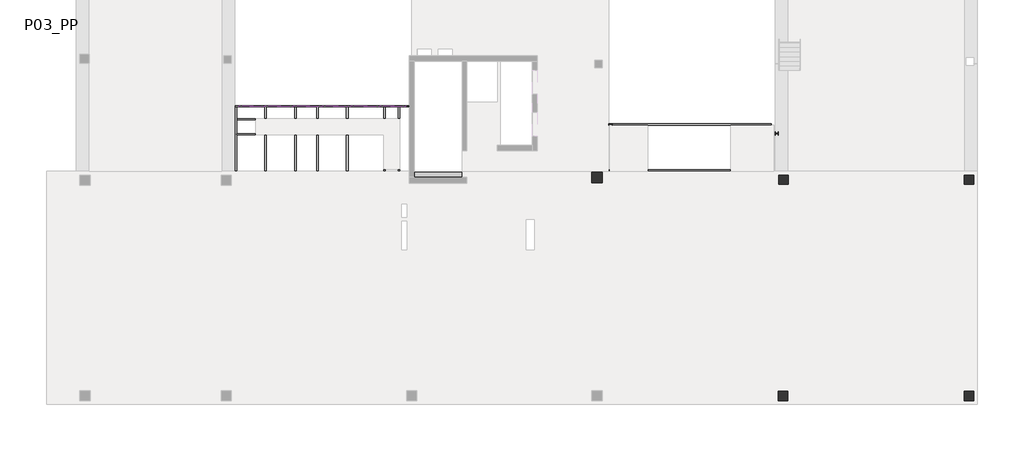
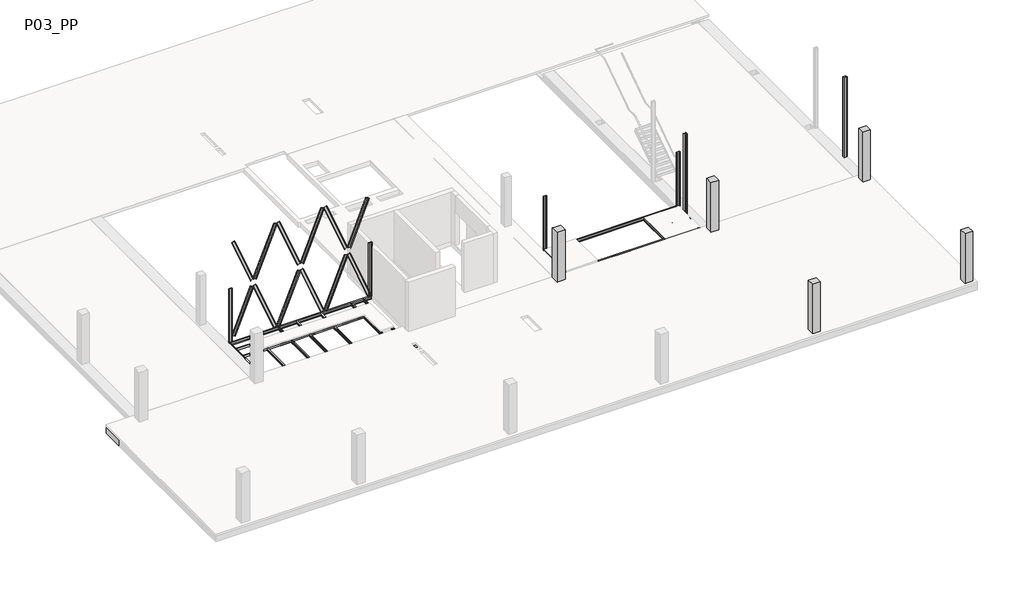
# One storey, part 2 of 4: 62 beams, 11 columns.
"""IFC4 building model written with IfcOpenShell, lengths in millimetres."""

from ifc_helpers import new_model, si_unit, frame, origin, place, context, project, spatial, polyline, outline, extrude, faceted_brep, transform, mapped, element, save
from components import ub_universal_beams_ipe_160x82_16e40fe9, ub_universal_beams_ipe_160x82_7bbaf760, ub_universal_beams_ipe_200x100_60d02f98, ub_universal_beams_ipe_200x100_8a704f57, ub_universal_beams_ipe_200x100_5514cdf4, ub_universal_beams_ipe_200x100_31cfee39, ub_universal_beams_ipe_200x100_46597ce6, upn120x55_69f0bca1, upn120x55_efc8f615, upn120x55_2e91fe93, upn120x55_dd576345, upn120x55_d7d90911, upn200x75_a6df8eeb, upn200x75_22e62ea1, upn200x75_15f8b11e, upn200x75_1f64faac, upn200x75_e6c17937, upn200x75_5ddb06b6, upn200x75_7b6a578c, upn200x75_df23aae5, upn200x75_922ad74a, upn200x75_de95b273, rhs_rectangular_hollow_section_column_200x150x5_0rhs_a2d85ab5, uc_universal_columns_column_uc180x180_37066f97, upn_200x75_1933780c

model = new_model("IFC4")

# Units and contexts
model_context = context("Model", 3, world=origin())
ifc_project = project(units=[si_unit("LENGTHUNIT", "METRE", prefix="MILLI")], contexts=[model_context])

# Site, building, storey
site = spatial("IfcSite", under=ifc_project)
building = spatial("IfcBuilding", under=site)
storey = spatial("IfcBuildingStorey", under=building, Name="P03_PP", Elevation=18660.0)

# Beams
placement = place(None, origin())
element("IfcBeam", 1, ObjectType="M_Concrete-Rectangular Beam : 1500 x 550mm", at=placement, inside=storey, context=model_context, shape_type="SweptSolid", body=[
    extrude(outline(polyline([(16958.7687297, -15610.5871866), (15458.7687297, -15610.5871866), (15458.7687297, -5360.5861564), (16958.7687297, -5360.5861564), (16958.7687297, -15610.5871866)])), frame((0.0, 0.0, 18110.0), z_axis=(0.0, 0.0, 1.0), x_axis=(1.0, 0.0, 0.0)), (0.0, 0.0, 1.0), 400.0),
])
element("IfcBeam", 2, ObjectType="M_Concrete-Rectangular Beam : 1500 x 550mm", at=placement, inside=storey, context=model_context, shape_type="Brep", body=[
    faceted_brep([(-10790.2146087, -4610.5861498, 18660.0), (-13390.3216429, -4610.5861498, 18660.0), (-13390.3216429, -4885.1039312, 18660.0), (-10790.2146087, -4885.1039312, 18660.0), (-33190.2931093, -6110.5861498, 18110.0), (-32490.2931093, -6110.5861498, 18110.0), (-31216.2708024, -6110.5861498, 18110.0), (-30816.2708024, -6110.5861498, 18110.0), (-29549.6041367, -6110.5861498, 18110.0), (-29149.6041367, -6110.5861498, 18110.0), (-27882.9374731, -6110.5861498, 18110.0), (-27482.9374731, -6110.5861498, 18110.0), (-26216.2708089, -6110.5861498, 18110.0), (-25816.2708089, -6110.5861498, 18110.0), (-24549.6041453, -6110.5861498, 18110.0), (-24149.6041453, -6110.5861498, 18110.0), (-22882.9374805, -6110.5861498, 18110.0), (-22482.9374805, -6110.5861498, 18110.0), (-21216.2708168, -6110.5861498, 18110.0), (-20816.2708168, -6110.5861498, 18110.0), (-19549.6041539, -6110.5861498, 18110.0), (-19149.6041539, -6110.5861498, 18110.0), (-17882.9374898, -6110.5861498, 18110.0), (-17482.9374898, -6110.5861498, 18110.0), (-16216.2708252, -6110.5861498, 18110.0), (-15816.2708252, -6110.5861498, 18110.0), (-14549.604161, -6110.5861498, 18110.0), (-14149.604161, -6110.5861498, 18110.0), (-12882.9374977, -6110.5861498, 18110.0), (-12482.9374977, -6110.5861498, 18110.0), (-11216.2708336, -6110.5861498, 18110.0), (-10816.2708336, -6110.5861498, 18110.0), (-9549.6041702, -6110.5861498, 18110.0), (-9149.6041702, -6110.5861498, 18110.0), (-7882.9375051, -6110.5861498, 18110.0), (-7482.9375051, -6110.5861498, 18110.0), (-6216.2708415, -6110.5861498, 18110.0), (-5816.2708415, -6110.5861498, 18110.0), (-4549.6041777, -6110.5861498, 18110.0), (-4149.6041777, -6110.5861498, 18110.0), (-2882.9375136, -6110.5861498, 18110.0), (-2482.9375136, -6110.5861498, 18110.0), (-1216.2708502, -6110.5861498, 18110.0), (-816.2708502, -6110.5861498, 18110.0), (450.3958139, -6110.5861498, 18110.0), (850.3958139, -6110.5861498, 18110.0), (2117.0624776, -6110.5861498, 18110.0), (2517.0624776, -6110.5861498, 18110.0), (3783.7291418, -6110.5861498, 18110.0), (4183.7291418, -6110.5861498, 18110.0), (5450.3958055, -6110.5861498, 18110.0), (5850.3957984, -6110.5861498, 18110.0), (5850.3957984, -6110.5861498, 18510.0), (5450.3958055, -6110.5861498, 18510.0), (4183.7291418, -6110.5861498, 18510.0), (3783.7291418, -6110.5861498, 18510.0), (2517.0624776, -6110.5861498, 18510.0), (2117.0624776, -6110.5861498, 18510.0), (850.3958139, -6110.5861498, 18510.0), (450.3958139, -6110.5861498, 18510.0), (-816.2708502, -6110.5861498, 18510.0), (-1216.2708502, -6110.5861498, 18510.0), (-2482.9375136, -6110.5861498, 18510.0), (-2882.9375136, -6110.5861498, 18510.0), (-4149.6041777, -6110.5861498, 18510.0), (-4549.6041777, -6110.5861498, 18510.0), (-5816.2708415, -6110.5861498, 18510.0), (-6216.2708415, -6110.5861498, 18510.0), (-7482.9375051, -6110.5861498, 18510.0), (-7882.9375051, -6110.5861498, 18510.0), (-9149.6041702, -6110.5861498, 18510.0), (-9549.6041702, -6110.5861498, 18510.0), (-10816.2708336, -6110.5861498, 18510.0), (-11216.2708336, -6110.5861498, 18510.0), (-12482.9374977, -6110.5861498, 18510.0), (-12882.9374977, -6110.5861498, 18510.0), (-14149.604161, -6110.5861498, 18510.0), (-14549.604161, -6110.5861498, 18510.0), (-15816.2708252, -6110.5861498, 18510.0), (-16216.2708252, -6110.5861498, 18510.0), (-17482.9374898, -6110.5861498, 18510.0), (-17882.9374898, -6110.5861498, 18510.0), (-19149.6041539, -6110.5861498, 18510.0), (-19549.6041539, -6110.5861498, 18510.0), (-20816.2708168, -6110.5861498, 18510.0), (-21216.2708168, -6110.5861498, 18510.0), (-22482.9374805, -6110.5861498, 18510.0), (-22882.9374805, -6110.5861498, 18510.0), (-24149.6041453, -6110.5861498, 18510.0), (-24549.6041453, -6110.5861498, 18510.0), (-25816.2708089, -6110.5861498, 18510.0), (-26216.2708089, -6110.5861498, 18510.0), (-27482.9374731, -6110.5861498, 18510.0), (-27882.9374731, -6110.5861498, 18510.0), (-29149.6041367, -6110.5861498, 18510.0), (-29549.6041367, -6110.5861498, 18510.0), (-30816.2708024, -6110.5861498, 18510.0), (-31216.2708024, -6110.5861498, 18510.0), (-32490.2931093, -6110.5861498, 18510.0), (-33190.2931093, -6110.5861498, 18510.0), (-3266.6336939, -5160.398017, 18110.0), (-3266.6336945, -4610.5861498, 18110.0), (5850.3957984, -4610.5861498, 18110.0), (-33190.2931093, -4610.5861498, 18110.0), (-13640.3216429, -4610.5861498, 18110.0), (-13640.3216429, -5185.1039323, 18110.0), (-10540.3248425, -5185.1039323, 18110.0), (-10540.3248425, -4885.1039323, 18110.0), (-13390.3216429, -4885.1039323, 18110.0), (-13390.3216429, -4610.5861498, 18110.0), (-3816.6336945, -4610.5861498, 18110.0), (-3816.6336939, -5160.3980176, 18110.0), (-23241.1836358, -5310.5863897, 18110.0), (-23241.1836357, -4760.5863897, 18110.0), (-23791.1836357, -4760.5863896, 18110.0), (-23791.1836358, -5310.5863896, 18110.0), (-30841.2256035, -5310.5863916, 18110.0), (-30841.2256052, -4760.5863916, 18110.0), (-31391.2256052, -4760.5863933, 18110.0), (-31391.2256035, -5310.5863933, 18110.0), (-13390.3216429, -4610.5861498, 18360.0), (-13640.3216429, -4610.5861498, 18360.0), (-33190.2931093, -4610.5861498, 18510.0), (-13390.3216429, -4610.5861498, 18510.0), (-10790.2146087, -4610.5861498, 18510.0), (-7015.3241677, -4610.5861498, 18510.0), (-6715.3241677, -4610.5861498, 18510.0), (-3763.6343046, -4610.5861498, 18510.0), (-2913.6343046, -4610.5861498, 18510.0), (5850.3957984, -4610.5861498, 18510.0), (-3266.6336945, -4610.5861498, 18360.0), (-3763.6343046, -4610.5861498, 18360.0), (-3816.6336945, -4610.5861498, 18360.0), (-3266.6336939, -5160.398017, 18360.0), (-3816.6336939, -5160.3980176, 18360.0), (-23241.1836358, -5310.5863897, 18360.0), (-23241.1836357, -4760.5863897, 18360.0), (-23791.1836358, -5310.5863896, 18360.0), (-23791.1836357, -4760.5863896, 18360.0), (-30841.2256035, -5310.5863916, 18360.0), (-30841.2256052, -4760.5863916, 18360.0), (-31391.2256035, -5310.5863933, 18360.0), (-31391.2256052, -4760.5863933, 18360.0), (-10540.3248425, -4885.1039323, 18360.0), (-13390.3216429, -4885.1039323, 18360.0), (-13640.3216429, -5185.1039323, 18360.0), (-10540.3248425, -5185.1039323, 18360.0), (-13640.3216429, -4885.1039323, 18360.0), (5850.3957984, -5360.5861564, 18510.0), (-10790.2146087, -4885.1039312, 18510.0), (-13390.3216429, -4885.1039312, 18510.0)], [[[0, 1, 2, 3]], [[4, 5, 6, 7, 8, 9, 10, 11, 12, 13, 14, 15, 16, 17, 18, 19, 20, 21, 22, 23, 24, 25, 26, 27, 28, 29, 30, 31, 32, 33, 34, 35, 36, 37, 38, 39, 40, 41, 42, 43, 44, 45, 46, 47, 48, 49, 50, 51, 52, 53, 54, 55, 56, 57, 58, 59, 60, 61, 62, 63, 64, 65, 66, 67, 68, 69, 70, 71, 72, 73, 74, 75, 76, 77, 78, 79, 80, 81, 82, 83, 84, 85, 86, 87, 88, 89, 90, 91, 92, 93, 94, 95, 96, 97, 98, 99]], [[100, 101, 102, 51, 50, 49, 48, 47, 46, 45, 44, 43, 42, 41, 40, 39, 38, 37, 36, 35, 34, 33, 32, 31, 30, 29, 28, 27, 26, 25, 24, 23, 22, 21, 20, 19, 18, 17, 16, 15, 14, 13, 12, 11, 10, 9, 8, 7, 6, 5, 4, 103, 104, 105, 106, 107, 108, 109, 110, 111], [112, 113, 114, 115], [116, 117, 118, 119]], [[109, 120, 121, 104, 103, 122, 123, 1, 0, 124, 125, 126, 127, 128, 129, 102, 101, 130, 131, 132, 110]], [[100, 133, 130, 101]], [[134, 133, 100, 111]], [[134, 111, 110, 132]], [[133, 134, 132, 131, 130]], [[135, 136, 113, 112]], [[137, 135, 112, 115]], [[138, 137, 115, 114]], [[136, 138, 114, 113]], [[136, 135, 137, 138]], [[139, 140, 117, 116]], [[141, 139, 116, 119]], [[142, 141, 119, 118]], [[140, 142, 118, 117]], [[140, 139, 141, 142]], [[107, 143, 144, 108]], [[145, 146, 106, 105]], [[146, 145, 147, 121, 120, 144, 143]], [[146, 143, 107, 106]], [[145, 105, 104, 121, 147]], [[144, 120, 109, 108]], [[51, 102, 129, 148, 52]], [[103, 4, 99, 122]], [[149, 150, 123, 122, 99, 98, 97, 96, 95, 94, 93, 92, 91, 90, 89, 88, 87, 86, 85, 84, 83, 82, 81, 80, 79, 78, 77, 76, 75, 74, 73, 72, 71, 70, 69, 68, 67, 66, 65, 64, 63, 62, 61, 60, 59, 58, 57, 56, 55, 54, 53, 52, 148, 129, 128, 127, 126, 125, 124]], [[3, 149, 124, 0]], [[150, 2, 1, 123]], [[150, 149, 3, 2]]]),
])
element("IfcBeam", 3, ObjectType="M_Concrete-Rectangular Beam : 400 x 550mm", at=placement, inside=storey, context=model_context, shape_type="SweptSolid", body=[
    extrude(outline(polyline([(-14149.604161, -15610.5871866), (-14549.604161, -15610.5871866), (-14549.604161, -6110.5861498), (-14149.604161, -6110.5861498), (-14149.604161, -15610.5871866)])), frame((0.0, 0.0, 18110.0), z_axis=(0.0, 0.0, 1.0), x_axis=(1.0, 0.0, 0.0)), (0.0, 0.0, 1.0), 400.0),
])
element("IfcBeam", 4, ObjectType="M_Concrete-Rectangular Beam : 400 x 550mm", at=placement, inside=storey, context=model_context, shape_type="SweptSolid", body=[
    extrude(outline(polyline([(-12482.9374977, -15610.5871866), (-12882.9374977, -15610.5871866), (-12882.9374977, -6110.5861498), (-12482.9374977, -6110.5861498), (-12482.9374977, -15610.5871866)])), frame((0.0, 0.0, 18110.0), z_axis=(0.0, 0.0, 1.0), x_axis=(1.0, 0.0, 0.0)), (0.0, 0.0, 1.0), 400.0),
])
element("IfcBeam", 5, ObjectType="M_Concrete-Rectangular Beam : 400 x 550mm", at=placement, inside=storey, context=model_context, shape_type="SweptSolid", body=[
    extrude(outline(polyline([(-10816.2708336, -15610.5871866), (-11216.2708336, -15610.5871866), (-11216.2708336, -6110.5861498), (-10816.2708336, -6110.5861498), (-10816.2708336, -15610.5871866)])), frame((0.0, 0.0, 18110.0), z_axis=(0.0, 0.0, 1.0), x_axis=(1.0, 0.0, 0.0)), (0.0, 0.0, 1.0), 400.0),
])
element("IfcBeam", 6, ObjectType="M_Concrete-Rectangular Beam : 400 x 550mm", at=placement, inside=storey, context=model_context, shape_type="SweptSolid", body=[
    extrude(outline(polyline([(-9149.6041702, -15610.5871866), (-9549.6041702, -15610.5871866), (-9549.6041702, -6110.5861498), (-9149.6041702, -6110.5861498), (-9149.6041702, -15610.5871866)])), frame((0.0, 0.0, 18110.0), z_axis=(0.0, 0.0, 1.0), x_axis=(1.0, 0.0, 0.0)), (0.0, 0.0, 1.0), 400.0),
])
element("IfcBeam", 7, ObjectType="M_Concrete-Rectangular Beam : 400 x 550mm", at=placement, inside=storey, context=model_context, shape_type="SweptSolid", body=[
    extrude(outline(polyline([(-7482.9375051, -15610.5871866), (-7882.9375051, -15610.5871866), (-7882.9375051, -6110.5861498), (-7482.9375051, -6110.5861498), (-7482.9375051, -15610.5871866)])), frame((0.0, 0.0, 18110.0), z_axis=(0.0, 0.0, 1.0), x_axis=(1.0, 0.0, 0.0)), (0.0, 0.0, 1.0), 400.0),
])
element("IfcBeam", 8, ObjectType="M_Concrete-Rectangular Beam : 400 x 550mm", at=placement, inside=storey, context=model_context, shape_type="SweptSolid", body=[
    extrude(outline(polyline([(-5816.2708415, -15610.5871866), (-6216.2708415, -15610.5871866), (-6216.2708415, -6110.5861498), (-5816.2708415, -6110.5861498), (-5816.2708415, -15610.5871866)])), frame((0.0, 0.0, 18110.0), z_axis=(0.0, 0.0, 1.0), x_axis=(1.0, 0.0, 0.0)), (0.0, 0.0, 1.0), 400.0),
])
element("IfcBeam", 9, ObjectType="M_Concrete-Rectangular Beam : 400 x 550mm", at=placement, inside=storey, context=model_context, shape_type="SweptSolid", body=[
    extrude(outline(polyline([(-4149.6041777, -15610.5871866), (-4549.6041777, -15610.5871866), (-4549.6041777, -6110.5861498), (-4149.6041777, -6110.5861498), (-4149.6041777, -15610.5871866)])), frame((0.0, 0.0, 18110.0), z_axis=(0.0, 0.0, 1.0), x_axis=(1.0, 0.0, 0.0)), (0.0, 0.0, 1.0), 400.0),
])
element("IfcBeam", 10, ObjectType="M_Concrete-Rectangular Beam : 400 x 550mm", at=placement, inside=storey, context=model_context, shape_type="SweptSolid", body=[
    extrude(outline(polyline([(-2482.9375136, -15610.5871866), (-2882.9375136, -15610.5871866), (-2882.9375136, -6110.5861498), (-2482.9375136, -6110.5861498), (-2482.9375136, -15610.5871866)])), frame((0.0, 0.0, 18110.0), z_axis=(0.0, 0.0, 1.0), x_axis=(1.0, 0.0, 0.0)), (0.0, 0.0, 1.0), 400.0),
])
element("IfcBeam", 11, ObjectType="M_Concrete-Rectangular Beam : 400 x 550mm", at=placement, inside=storey, context=model_context, shape_type="SweptSolid", body=[
    extrude(outline(polyline([(-816.2708502, -15610.5871866), (-1216.2708502, -15610.5871866), (-1216.2708502, -6110.5861498), (-816.2708502, -6110.5861498), (-816.2708502, -15610.5871866)])), frame((0.0, 0.0, 18110.0), z_axis=(0.0, 0.0, 1.0), x_axis=(1.0, 0.0, 0.0)), (0.0, 0.0, 1.0), 400.0),
])
element("IfcBeam", 12, ObjectType="M_Concrete-Rectangular Beam : 400 x 550mm", at=placement, inside=storey, context=model_context, shape_type="SweptSolid", body=[
    extrude(outline(polyline([(850.3958139, -15610.5871866), (450.3958139, -15610.5871866), (450.3958139, -6110.5861498), (850.3958139, -6110.5861498), (850.3958139, -15610.5871866)])), frame((0.0, 0.0, 18110.0), z_axis=(0.0, 0.0, 1.0), x_axis=(1.0, 0.0, 0.0)), (0.0, 0.0, 1.0), 400.0),
])
element("IfcBeam", 13, ObjectType="M_Concrete-Rectangular Beam : 400 x 550mm", at=placement, inside=storey, context=model_context, shape_type="SweptSolid", body=[
    extrude(outline(polyline([(2517.0624776, -15610.5871866), (2117.0624776, -15610.5871866), (2117.0624776, -6110.5861498), (2517.0624776, -6110.5861498), (2517.0624776, -15610.5871866)])), frame((0.0, 0.0, 18110.0), z_axis=(0.0, 0.0, 1.0), x_axis=(1.0, 0.0, 0.0)), (0.0, 0.0, 1.0), 400.0),
])
element("IfcBeam", 14, ObjectType="M_Concrete-Rectangular Beam : 400 x 550mm", at=placement, inside=storey, context=model_context, shape_type="SweptSolid", body=[
    extrude(outline(polyline([(4183.7291418, -15610.5871866), (3783.7291418, -15610.5871866), (3783.7291418, -6110.5861498), (4183.7291418, -6110.5861498), (4183.7291418, -15610.5871866)])), frame((0.0, 0.0, 18110.0), z_axis=(0.0, 0.0, 1.0), x_axis=(1.0, 0.0, 0.0)), (0.0, 0.0, 1.0), 400.0),
])
element("IfcBeam", 15, ObjectType="M_Concrete-Rectangular Beam : 400 x 550mm", at=placement, inside=storey, context=model_context, shape_type="SweptSolid", body=[
    extrude(outline(polyline([(5850.3958055, -15610.5871866), (5450.3958055, -15610.5871866), (5450.3958055, -6110.5861498), (5850.3958055, -6110.5861498), (5850.3958055, -15610.5871866)])), frame((0.0, 0.0, 18110.0), z_axis=(0.0, 0.0, 1.0), x_axis=(1.0, 0.0, 0.0)), (0.0, 0.0, 1.0), 400.0),
])
element("IfcBeam", 16, ObjectType="M_Concrete-Rectangular Beam : 400 x 550mm", at=placement, inside=storey, context=model_context, shape_type="SweptSolid", body=[
    extrude(outline(polyline([(7517.0624701, -15610.5871866), (7117.0624701, -15610.5871866), (7117.0624701, -5360.5861564), (7517.0624701, -5360.5861564), (7517.0624701, -15610.5871866)])), frame((0.0, 0.0, 18110.0), z_axis=(0.0, 0.0, 1.0), x_axis=(1.0, 0.0, 0.0)), (0.0, 0.0, 1.0), 400.0),
])
element("IfcBeam", 17, ObjectType="M_Concrete-Rectangular Beam : 400 x 550mm", at=placement, inside=storey, context=model_context, shape_type="SweptSolid", body=[
    extrude(outline(polyline([(9183.7291339, -15610.5871866), (8783.7291339, -15610.5871866), (8783.7291339, -5360.5861564), (9183.7291339, -5360.5861564), (9183.7291339, -15610.5871866)])), frame((0.0, 0.0, 18110.0), z_axis=(0.0, 0.0, 1.0), x_axis=(1.0, 0.0, 0.0)), (0.0, 0.0, 1.0), 400.0),
])
element("IfcBeam", 18, ObjectType="M_Concrete-Rectangular Beam : 400 x 550mm", at=placement, inside=storey, context=model_context, shape_type="SweptSolid", body=[
    extrude(outline(polyline([(10850.3957976, -15610.5871866), (10450.3957976, -15610.5871866), (10450.3957976, -5360.5861564), (10850.3957976, -5360.5861564), (10850.3957976, -15610.5871866)])), frame((0.0, 0.0, 18110.0), z_axis=(0.0, 0.0, 1.0), x_axis=(1.0, 0.0, 0.0)), (0.0, 0.0, 1.0), 400.0),
])
element("IfcBeam", 19, ObjectType="M_Concrete-Rectangular Beam : 400 x 550mm", at=placement, inside=storey, context=model_context, shape_type="SweptSolid", body=[
    extrude(outline(polyline([(12517.0624618, -15610.5871866), (12117.0624618, -15610.5871866), (12117.0624618, -5360.5861564), (12517.0624618, -5360.5861564), (12517.0624618, -15610.5871866)])), frame((0.0, 0.0, 18110.0), z_axis=(0.0, 0.0, 1.0), x_axis=(1.0, 0.0, 0.0)), (0.0, 0.0, 1.0), 400.0),
])
element("IfcBeam", 20, ObjectType="M_Concrete-Rectangular Beam : 400 x 550mm", at=placement, inside=storey, context=model_context, shape_type="SweptSolid", body=[
    extrude(outline(polyline([(14183.7291255, -15610.5871866), (13783.7291255, -15610.5871866), (13783.7291255, -5360.5861564), (14183.7291255, -5360.5861564), (14183.7291255, -15610.5871866)])), frame((0.0, 0.0, 18110.0), z_axis=(0.0, 0.0, 1.0), x_axis=(1.0, 0.0, 0.0)), (0.0, 0.0, 1.0), 400.0),
])
element("IfcBeam", 21, ObjectType="M_Concrete-Rectangular Beam : 800 x 700mm", at=placement, inside=storey, context=model_context, shape_type="Brep", body=[
    faceted_brep([(5850.3957984, -5360.5861564, 17960.0), (16258.7687242, -5360.5861564, 17960.0), (16958.7687297, -5360.5861564, 17960.0), (16958.7687297, -5360.5861564, 18110.0), (16958.7687297, -5360.5861564, 18510.0), (15458.7687297, -5360.5861564, 18510.0), (14183.7291255, -5360.5861564, 18510.0), (13783.7291255, -5360.5861564, 18510.0), (12517.0624618, -5360.5861564, 18510.0), (12117.0624618, -5360.5861564, 18510.0), (10850.3957976, -5360.5861564, 18510.0), (10450.3957976, -5360.5861564, 18510.0), (9183.7291339, -5360.5861564, 18510.0), (8783.7291339, -5360.5861564, 18510.0), (7517.0624701, -5360.5861564, 18510.0), (7117.0624701, -5360.5861564, 18510.0), (5850.3957984, -5360.5861564, 18510.0), (16958.7687297, -4560.5861564, 17960.0), (5850.3957984, -4560.5861564, 17960.0), (6058.8308521, -4560.5861564, 17960.0), (6758.8308521, -4560.5861564, 17960.0), (16258.7687242, -4560.5861564, 17960.0), (6758.8308537, -5260.6051135, 17960.0), (6758.8308538, -4760.6051135, 17960.0), (6258.8308538, -4760.6051134, 17960.0), (6258.8308537, -5260.6051134, 17960.0), (16758.7686348, -5260.6050919, 17960.0), (16758.7686345, -4760.6050919, 17960.0), (16258.7686345, -4760.6050922, 17960.0), (16258.7686348, -5260.6050922, 17960.0), (5850.3957984, -4560.5861564, 18510.0), (16958.7687297, -4560.5861564, 18510.0), (6758.8308537, -5260.6051135, 18360.0), (6758.8308538, -4760.6051135, 18360.0), (6258.8308537, -5260.6051134, 18360.0), (6258.8308538, -4760.6051134, 18360.0), (16758.7686348, -5260.6050919, 18360.0), (16758.7686345, -4760.6050919, 18360.0), (16258.7686348, -5260.6050922, 18360.0), (16258.7686345, -4760.6050922, 18360.0), (5850.3957984, -4610.5861498, 18510.0)], [[[0, 1, 2, 3, 4, 5, 6, 7, 8, 9, 10, 11, 12, 13, 14, 15, 16]], [[17, 2, 1, 0, 18, 19, 20, 21], [22, 23, 24, 25], [26, 27, 28, 29]], [[17, 21, 20, 19, 18, 30, 31]], [[2, 17, 31, 4, 3]], [[32, 33, 23, 22]], [[34, 32, 22, 25]], [[33, 32, 34, 35]], [[35, 34, 25, 24]], [[36, 37, 27, 26]], [[38, 36, 26, 29]], [[39, 38, 29, 28]], [[37, 36, 38, 39]], [[33, 35, 24, 23]], [[37, 39, 28, 27]], [[18, 0, 16, 40, 30]], [[16, 15, 14, 13, 12, 11, 10, 9, 8, 7, 6, 5, 4, 31, 30, 40]]]),
])
ub_universal_beams_ipe_160x82_shape = ub_universal_beams_ipe_160x82_16e40fe9(model_context)
element("IfcBeam", 22, ObjectType="UB-Universal Beams : IPE 160x82", at=placement, inside=storey, context=model_context, shape_type="MappedRepresentation", body=[
    mapped(ub_universal_beams_ipe_160x82_shape, transform((-14190.4459331, -2817.636997, 18580.0), x_axis=(0.0, 1.0, 0.0), y_axis=(-1.0, 0.0, 0.0), z_axis=(0.0, 0.0, 1.0))),
])
element("IfcBeam", 23, ObjectType="UB-Universal Beams : IPE 160x82", at=placement, inside=storey, context=model_context, shape_type="MappedRepresentation", body=[
    mapped(ub_universal_beams_ipe_160x82_shape, transform((-14990.4459326, -2817.636969, 18580.0), x_axis=(0.0, 1.0, 0.0), y_axis=(-1.0, 0.0, 0.0), z_axis=(0.0, 0.0, 1.0))),
])
element("IfcBeam", 24, ObjectType="UB-Universal Beams : IPE 160x82", at=placement, inside=storey, context=model_context, shape_type="MappedRepresentation", body=[
    mapped(ub_universal_beams_ipe_160x82_shape, transform((-16990.4459316, -2817.6368991, 18580.0), x_axis=(0.0, 1.0, 0.0), y_axis=(-1.0, 0.0, 0.0), z_axis=(0.0, 0.0, 1.0))),
])
element("IfcBeam", 25, ObjectType="UB-Universal Beams : IPE 160x82", at=placement, inside=storey, context=model_context, shape_type="MappedRepresentation", body=[
    mapped(ub_universal_beams_ipe_160x82_shape, transform((-18590.4459308, -2817.6368432, 18580.0), x_axis=(0.0, 1.0, 0.0), y_axis=(-1.0, 0.0, 0.0), z_axis=(0.0, 0.0, 1.0))),
])
element("IfcBeam", 26, ObjectType="UB-Universal Beams : IPE 160x82", at=placement, inside=storey, context=model_context, shape_type="MappedRepresentation", body=[
    mapped(ub_universal_beams_ipe_160x82_shape, transform((-19790.4459314, -2817.6368012, 18580.0), x_axis=(0.0, 1.0, 0.0), y_axis=(-1.0, 0.0, 0.0), z_axis=(0.0, 0.0, 1.0))),
])
element("IfcBeam", 27, ObjectType="UB-Universal Beams : IPE 160x82", at=placement, inside=storey, context=model_context, shape_type="MappedRepresentation", body=[
    mapped(ub_universal_beams_ipe_160x82_shape, transform((-21390.4459306, -2817.6367453, 18580.0), x_axis=(0.0, 1.0, 0.0), y_axis=(-1.0, 0.0, 0.0), z_axis=(0.0, 0.0, 1.0))),
])
ub_universal_beams_ipe_160x82_2_shape = ub_universal_beams_ipe_160x82_7bbaf760(model_context)
element("IfcBeam", 28, ObjectType="UB-Universal Beams : IPE 160x82", at=placement, inside=storey, context=model_context, shape_type="MappedRepresentation", body=[
    mapped(ub_universal_beams_ipe_160x82_2_shape, transform((-22991.1860553, -2817.6366893, 18580.0), x_axis=(0.0, 1.0, 0.0), y_axis=(-1.0, 0.0, 0.0), z_axis=(0.0, 0.0, 1.0))),
])
ub_universal_beams_ipe_200x100_shape = ub_universal_beams_ipe_200x100_60d02f98(model_context)
element("IfcBeam", 29, ObjectType="UB-Universal Beams : IPE 200x100", at=placement, inside=storey, context=model_context, shape_type="MappedRepresentation", body=[
    mapped(ub_universal_beams_ipe_200x100_shape, transform((1299.9319648, -4509.6213025, 18560.0), x_axis=(-1.0, 0.0, 0.0), y_axis=(0.0, -1.0, 0.0), z_axis=(0.0, 0.0, 1.0))),
])
ub_universal_beams_ipe_200x100_2_shape = ub_universal_beams_ipe_200x100_8a704f57(model_context)
element("IfcBeam", 30, ObjectType="UB-Universal Beams : IPE 200x100", at=placement, inside=storey, context=model_context, shape_type="MappedRepresentation", body=[
    mapped(ub_universal_beams_ipe_200x100_2_shape, transform((5938.4982342, -3517.7089767, 18560.0), x_axis=(0.0, 1.0, 0.0), y_axis=(-1.0, 0.0, 0.0), z_axis=(0.0, 0.0, 1.0))),
])
ub_universal_beams_ipe_200x100_3_shape = ub_universal_beams_ipe_200x100_5514cdf4(model_context)
element("IfcBeam", 31, ObjectType="UB-Universal Beams : IPE 200x100", at=placement, inside=storey, context=model_context, shape_type="MappedRepresentation", body=[
    mapped(ub_universal_beams_ipe_200x100_3_shape, transform((3714.2873994, -3297.6901467, 18560.0), x_axis=(0.0, 1.0, 0.0), y_axis=(-1.0, 0.0, 0.0), z_axis=(0.0, 0.0, 1.0))),
])
ub_universal_beams_ipe_200x100_4_shape = ub_universal_beams_ipe_200x100_31cfee39(model_context)
element("IfcBeam", 32, ObjectType="UB-Universal Beams : IPE 200x100", at=placement, inside=storey, context=model_context, shape_type="MappedRepresentation", body=[
    mapped(ub_universal_beams_ipe_200x100_4_shape, transform((-861.4958562, -3297.6901467, 18560.0), x_axis=(0.0, 1.0, 0.0), y_axis=(-1.0, 0.0, 0.0), z_axis=(0.0, 0.0, 1.0))),
])
element("IfcBeam", 33, ObjectType="UB-Universal Beams : IPE 200x100", at=placement, inside=storey, context=model_context, shape_type="MappedRepresentation", body=[
    mapped(ub_universal_beams_ipe_200x100_4_shape, transform((4826.3953909, -3297.6901467, 18560.0), x_axis=(0.0, 1.0, 0.0), y_axis=(-1.0, 0.0, 0.0), z_axis=(0.0, 0.0, 1.0))),
])
element("IfcBeam", 34, ObjectType="UB-Universal Beams : IPE 200x100", at=placement, inside=storey, context=model_context, shape_type="MappedRepresentation", body=[
    mapped(ub_universal_beams_ipe_200x100_4_shape, transform((-1511.4958562, -3297.6901467, 18560.0), x_axis=(0.0, 1.0, 0.0), y_axis=(-1.0, 0.0, 0.0), z_axis=(0.0, 0.0, 1.0))),
])
element("IfcBeam", 35, ObjectType="UB-Universal Beams : IPE 200x100", at=placement, inside=storey, context=model_context, shape_type="MappedRepresentation", body=[
    mapped(ub_universal_beams_ipe_200x100_4_shape, transform((-2161.4958562, -3297.6901467, 18560.0), x_axis=(0.0, 1.0, 0.0), y_axis=(-1.0, 0.0, 0.0), z_axis=(0.0, 0.0, 1.0))),
])
ub_universal_beams_ipe_200x100_5_shape = ub_universal_beams_ipe_200x100_46597ce6(model_context)
element("IfcBeam", 36, ObjectType="UB-Universal Beams : IPE 200x100", at=placement, inside=storey, context=model_context, shape_type="MappedRepresentation", body=[
    mapped(ub_universal_beams_ipe_200x100_5_shape, transform((-2811.4958562, -3292.2266861, 18560.0), x_axis=(0.0, 1.0, 0.0), y_axis=(-1.0, 0.0, 0.0), z_axis=(0.0, 0.0, 1.0))),
])
upn120x55_shape = upn120x55_69f0bca1(model_context)
element("IfcBeam", 37, ObjectType="M_MC Shapes : UPN120x55", at=placement, inside=storey, context=model_context, shape_type="MappedRepresentation", body=[
    mapped(upn120x55_shape, transform((-14590.4459328, -1772.1875003, 18600.0), x_axis=(0.9999999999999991, -4.319868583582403e-08, 0.0), y_axis=(4.319868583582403e-08, 0.9999999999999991, 0.0), z_axis=(0.0, 0.0, 1.0))),
])
element("IfcBeam", 38, ObjectType="M_MC Shapes : UPN120x55", at=placement, inside=storey, context=model_context, shape_type="MappedRepresentation", body=[
    mapped(upn120x55_shape, transform((-14590.4459328, -2572.1874803, 18600.0), x_axis=(0.9999999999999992, -4.0441322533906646e-08, 0.0), y_axis=(4.0441322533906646e-08, 0.9999999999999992, 0.0), z_axis=(0.0, 0.0, 1.0))),
])
upn120x55_2_shape = upn120x55_efc8f615(model_context)
element("IfcBeam", 39, ObjectType="M_MC Shapes : UPN120x55", at=placement, inside=storey, context=model_context, shape_type="MappedRepresentation", body=[
    mapped(upn120x55_2_shape, transform((-15990.4459321, -2572.1874237, 18600.0), x_axis=(0.9999999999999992, -4.0441322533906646e-08, 0.0), y_axis=(4.0441322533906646e-08, 0.9999999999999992, 0.0), z_axis=(0.0, 0.0, 1.0))),
])
element("IfcBeam", 40, ObjectType="M_MC Shapes : UPN120x55", at=placement, inside=storey, context=model_context, shape_type="MappedRepresentation", body=[
    mapped(upn120x55_2_shape, transform((-15990.4459321, -1772.1874398, 18600.0), x_axis=(0.9999999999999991, -4.319868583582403e-08, 0.0), y_axis=(4.319868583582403e-08, 0.9999999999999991, 0.0), z_axis=(0.0, 0.0, 1.0))),
])
upn120x55_3_shape = upn120x55_2e91fe93(model_context)
element("IfcBeam", 41, ObjectType="M_MC Shapes : UPN120x55", at=placement, inside=storey, context=model_context, shape_type="MappedRepresentation", body=[
    mapped(upn120x55_3_shape, transform((-20590.445931, -2572.1872377, 18600.0), x_axis=(0.9999999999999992, -4.0441322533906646e-08, 0.0), y_axis=(4.0441322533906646e-08, 0.9999999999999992, 0.0), z_axis=(0.0, 0.0, 1.0))),
])
element("IfcBeam", 42, ObjectType="M_MC Shapes : UPN120x55", at=placement, inside=storey, context=model_context, shape_type="MappedRepresentation", body=[
    mapped(upn120x55_3_shape, transform((-17790.4459312, -2572.1873509, 18600.0), x_axis=(0.9999999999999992, -4.0441322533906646e-08, 0.0), y_axis=(4.0441322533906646e-08, 0.9999999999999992, 0.0), z_axis=(0.0, 0.0, 1.0))),
])
element("IfcBeam", 43, ObjectType="M_MC Shapes : UPN120x55", at=placement, inside=storey, context=model_context, shape_type="MappedRepresentation", body=[
    mapped(upn120x55_3_shape, transform((-20590.445931, -1772.1872411, 18600.0), x_axis=(0.9999999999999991, -4.319868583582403e-08, 0.0), y_axis=(4.319868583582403e-08, 0.9999999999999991, 0.0), z_axis=(0.0, 0.0, 1.0))),
])
element("IfcBeam", 44, ObjectType="M_MC Shapes : UPN120x55", at=placement, inside=storey, context=model_context, shape_type="MappedRepresentation", body=[
    mapped(upn120x55_3_shape, transform((-17790.4459312, -1772.1873621, 18600.0), x_axis=(0.9999999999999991, -4.319868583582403e-08, 0.0), y_axis=(4.319868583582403e-08, 0.9999999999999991, 0.0), z_axis=(0.0, 0.0, 1.0))),
])
upn120x55_4_shape = upn120x55_dd576345(model_context)
element("IfcBeam", 45, ObjectType="M_MC Shapes : UPN120x55", at=placement, inside=storey, context=model_context, shape_type="MappedRepresentation", body=[
    mapped(upn120x55_4_shape, transform((-19190.4459311, -2572.1872943, 18600.0), x_axis=(0.9999999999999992, -4.0441322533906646e-08, 0.0), y_axis=(4.0441322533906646e-08, 0.9999999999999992, 0.0), z_axis=(0.0, 0.0, 1.0))),
])
element("IfcBeam", 46, ObjectType="M_MC Shapes : UPN120x55", at=placement, inside=storey, context=model_context, shape_type="MappedRepresentation", body=[
    mapped(upn120x55_4_shape, transform((-19190.4459311, -1772.1873016, 18600.0), x_axis=(0.9999999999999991, -4.319868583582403e-08, 0.0), y_axis=(4.319868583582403e-08, 0.9999999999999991, 0.0), z_axis=(0.0, 0.0, 1.0))),
])
upn120x55_5_shape = upn120x55_d7d90911(model_context)
element("IfcBeam", 47, ObjectType="M_MC Shapes : UPN120x55", at=placement, inside=storey, context=model_context, shape_type="MappedRepresentation", body=[
    mapped(upn120x55_5_shape, transform((-22165.4459321, -2572.187174, 18600.0), x_axis=(0.9999999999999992, -4.0441322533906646e-08, 0.0), y_axis=(4.0441322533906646e-08, 0.9999999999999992, 0.0), z_axis=(0.0, 0.0, 1.0))),
])
element("IfcBeam", 48, ObjectType="M_MC Shapes : UPN120x55", at=placement, inside=storey, context=model_context, shape_type="MappedRepresentation", body=[
    mapped(upn120x55_5_shape, transform((-22165.4459321, -1772.1871731, 18600.0), x_axis=(0.9999999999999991, -4.319868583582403e-08, 0.0), y_axis=(4.319868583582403e-08, 0.9999999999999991, 0.0), z_axis=(0.0, 0.0, 1.0))),
])
upn200x75_shape = upn200x75_a6df8eeb(model_context)
element("IfcBeam", 49, ObjectType="M_MC Shapes : UPN200x75", at=placement, inside=storey, context=model_context, shape_type="MappedRepresentation", body=[
    mapped(upn200x75_shape, transform((-18453.2517869, -1021.4871854, 18560.0), x_axis=(0.9999999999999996, -3.175673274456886e-08, 0.0), y_axis=(3.175673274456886e-08, 0.9999999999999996, 0.0), z_axis=(0.0, 0.0, 1.0))),
])
upn200x75_2_shape = upn200x75_22e62ea1(model_context)
element("IfcBeam", 50, ObjectType="M_MC Shapes : UPN200x75", at=placement, inside=storey, context=model_context, shape_type="MappedRepresentation", body=[
    mapped(upn200x75_2_shape, transform((-22210.933959, -1021.4872932, 20386.1409985), x_axis=(-0.3712989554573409, -1.1791242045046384e-08, -0.9285133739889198), y_axis=(3.175673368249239e-08, -0.9999999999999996, 0.0), z_axis=(-0.9285133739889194, -2.948655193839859e-08, 0.37129895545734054))),
])
upn200x75_3_shape = upn200x75_15f8b11e(model_context)
element("IfcBeam", 51, ObjectType="M_MC Shapes : UPN200x75", at=placement, inside=storey, context=model_context, shape_type="MappedRepresentation", body=[
    mapped(upn200x75_3_shape, transform((-14471.8716047, -1021.4872932, 20389.3990465), x_axis=(0.3712989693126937, -1.1791242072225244e-08, -0.9285133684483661), y_axis=(3.175673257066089e-08, 0.9999999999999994, 0.0), z_axis=(0.9285133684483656, -2.9486550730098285e-08, 0.37129896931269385))),
])
upn200x75_4_shape = upn200x75_1f64faac(model_context)
element("IfcBeam", 52, ObjectType="M_MC Shapes : UPN200x75", at=placement, inside=storey, context=model_context, shape_type="MappedRepresentation", body=[
    mapped(upn200x75_4_shape, transform((-14471.8716047, -1021.4872932, 24230.6012021), x_axis=(0.3712989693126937, -1.1791242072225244e-08, 0.9285133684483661), y_axis=(-3.175672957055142e-08, -0.9999999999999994, 0.0), z_axis=(0.9285133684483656, -2.9486547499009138e-08, -0.37129896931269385))),
])
upn200x75_5_shape = upn200x75_e6c17937(model_context)
element("IfcBeam", 53, ObjectType="M_MC Shapes : UPN200x75", at=placement, inside=storey, context=model_context, shape_type="MappedRepresentation", body=[
    mapped(upn200x75_5_shape, transform((-22210.933959, -1021.4872932, 24233.85925), x_axis=(-0.3712989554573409, -1.1791242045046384e-08, 0.9285133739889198), y_axis=(-3.175673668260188e-08, 0.9999999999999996, 0.0), z_axis=(-0.9285133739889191, -2.948655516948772e-08, -0.37129895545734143))),
])
upn200x75_6_shape = upn200x75_5ddb06b6(model_context)
element("IfcBeam", 54, ObjectType="M_MC Shapes : UPN200x75", at=placement, inside=storey, context=model_context, shape_type="MappedRepresentation", body=[
    mapped(upn200x75_6_shape, transform((-17564.6040172, -1021.4872929, 24222.9889381), x_axis=(0.3751231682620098, -1.157656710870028e-08, 0.9269749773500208), y_axis=(-3.086070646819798e-08, -0.9999999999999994, 0.0), z_axis=(0.9269749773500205, -2.860710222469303e-08, -0.37512316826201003))),
])
upn200x75_7_shape = upn200x75_7b6a578c(model_context)
element("IfcBeam", 55, ObjectType="M_MC Shapes : UPN200x75", at=placement, inside=storey, context=model_context, shape_type="MappedRepresentation", body=[
    mapped(upn200x75_7_shape, transform((-20665.2420333, -1021.4872929, 24224.0694044), x_axis=(0.3750164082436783, -1.1573272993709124e-08, 0.9270181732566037), y_axis=(-3.086070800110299e-08, -0.9999999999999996, 0.0), z_axis=(0.9270181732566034, -2.8608436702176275e-08, -0.37501640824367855))),
])
element("IfcBeam", 56, ObjectType="M_MC Shapes : UPN200x75", at=placement, inside=storey, context=model_context, shape_type="MappedRepresentation", body=[
    mapped(upn200x75_6_shape, transform((-16016.0393958, -1021.4872929, 20397.0114847), x_axis=(-0.3751231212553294, -1.1576566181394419e-08, -0.9269749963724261), y_axis=(3.086071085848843e-08, -0.9999999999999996, 0.0), z_axis=(-0.9269749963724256, -2.8607107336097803e-08, 0.37512312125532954))),
])
upn200x75_8_shape = upn200x75_df23aae5(model_context)
element("IfcBeam", 57, ObjectType="M_MC Shapes : UPN200x75", at=placement, inside=storey, context=model_context, shape_type="MappedRepresentation", body=[
    mapped(upn200x75_8_shape, transform((-17564.6040172, -1021.4872929, 20397.0113105), x_axis=(0.3751231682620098, -1.157656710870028e-08, -0.9269749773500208), y_axis=(3.086070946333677e-08, 0.9999999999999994, 0.0), z_axis=(0.9269749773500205, -2.860710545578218e-08, 0.37512316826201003))),
])
element("IfcBeam", 58, ObjectType="M_MC Shapes : UPN200x75", at=placement, inside=storey, context=model_context, shape_type="MappedRepresentation", body=[
    mapped(upn200x75_7_shape, transform((-19117.1200224, -1021.4872929, 20395.9307972), x_axis=(-0.3750164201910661, -1.1573273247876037e-08, -0.9270181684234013), y_axis=(3.086071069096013e-08, -0.9999999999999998, 0.0), z_axis=(-0.927018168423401, -2.8608439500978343e-08, 0.37501642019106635))),
])
upn200x75_9_shape = upn200x75_922ad74a(model_context)
element("IfcBeam", 59, ObjectType="M_MC Shapes : UPN200x75", at=placement, inside=storey, context=model_context, shape_type="MappedRepresentation", body=[
    mapped(upn200x75_9_shape, transform((-20665.2420334, -1021.4872929, 20395.9308442), x_axis=(0.375016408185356, -1.1573272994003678e-08, -0.9270181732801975), y_axis=(3.086071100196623e-08, 0.9999999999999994, 0.0), z_axis=(0.9270181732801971, -2.860843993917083e-08, 0.37501640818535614))),
])
element("IfcBeam", 60, ObjectType="M_MC Shapes : UPN200x75", at=placement, inside=storey, context=model_context, shape_type="MappedRepresentation", body=[
    mapped(upn200x75_9_shape, transform((-19117.1200222, -1021.4872929, 24224.0694514), x_axis=(-0.3750164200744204, -1.1573273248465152e-08, 0.9270181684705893), y_axis=(-3.0860713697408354e-08, 0.9999999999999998, 0.0), z_axis=(-0.9270181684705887, -2.8608442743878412e-08, -0.3750164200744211))),
])
upn200x75_10_shape = upn200x75_de95b273(model_context)
element("IfcBeam", 61, ObjectType="M_MC Shapes : UPN200x75", at=placement, inside=storey, context=model_context, shape_type="MappedRepresentation", body=[
    mapped(upn200x75_10_shape, transform((1566.4513123, -2010.7317513, 18560.0), x_axis=(0.9999999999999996, -3.175673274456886e-08, 0.0), y_axis=(3.175673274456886e-08, 0.9999999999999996, 0.0), z_axis=(0.0, 0.0, 1.0))),
])
element("IfcBeam", 62, ObjectType="M_MC Shapes : UPN200x75", at=placement, inside=storey, context=model_context, shape_type="MappedRepresentation", body=[
    mapped(upn200x75_8_shape, transform((-16016.0393958, -1021.4872929, 24222.9887639), x_axis=(-0.3751231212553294, -1.1576566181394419e-08, 0.9269749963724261), y_axis=(-3.0860713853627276e-08, 0.9999999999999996, 0.0), z_axis=(-0.9269749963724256, -2.860711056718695e-08, -0.37512312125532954))),
])

# Columns
element("IfcColumn", 63, ObjectType="Concrete-Rectangular-Column : Pilar_Rectangular-Formigo-500x500", at=placement, inside=storey, context=model_context, shape_type="Brep", body=[
    faceted_brep([(6734.6784217, -16410.586328, 18660.0), (6734.6784228, -16910.586328, 18660.0), (6234.6784228, -16910.5863291, 18660.0), (6234.6784217, -16410.5863291, 18660.0), (6734.6784217, -16410.586328, 22110.0), (6734.6784228, -16910.586328, 22110.0), (6734.6784228, -16910.586328, 21610.0), (6234.6784228, -16910.5863291, 22110.0), (6234.6784228, -16910.5863291, 21610.0), (6234.6784217, -16410.5863291, 22110.0)], [[[0, 1, 2, 3]], [[4, 5, 6, 1, 0]], [[5, 7, 8, 2, 1, 6]], [[7, 9, 3, 2, 8]], [[9, 4, 0, 3]], [[4, 9, 7, 5]]]),
])
element("IfcColumn", 64, ObjectType="Concrete-Rectangular-Column : Pilar_Rectangular-Formigo-500x500", at=placement, inside=storey, context=model_context, shape_type="Brep", body=[
    faceted_brep([(6758.8308538, -4760.6051135, 18660.0), (6758.8308537, -5260.6051135, 18660.0), (6258.8308537, -5260.6051134, 18660.0), (6258.8308538, -4760.6051134, 18660.0), (6758.8308538, -4760.6051135, 22110.0), (6758.8308537, -5260.6051135, 22110.0), (6758.8308538, -4760.6051135, 21610.0), (6258.8308537, -5260.6051134, 22110.0), (6258.8308538, -4760.6051134, 22110.0), (6258.8308538, -4760.6051134, 21610.0)], [[[0, 1, 2, 3]], [[4, 5, 1, 0, 6]], [[5, 7, 2, 1]], [[7, 8, 9, 3, 2]], [[8, 4, 6, 0, 3, 9]], [[4, 8, 7, 5]]]),
])
element("IfcColumn", 65, ObjectType="Concrete-Rectangular-Column : Pilar_Rectangular-Formigo-550x550", at=placement, inside=storey, context=model_context, shape_type="Brep", body=[
    faceted_brep([(-3266.6336945, -4610.398017, 18660.0), (-3266.6336939, -5160.398017, 18660.0), (-3816.6336939, -5160.3980176, 18660.0), (-3816.6336945, -4610.3980176, 18660.0), (-3266.6336945, -4610.398017, 22110.0), (-3266.6336939, -5160.398017, 22110.0), (-3266.6336939, -5160.398017, 21860.0), (-3266.6336939, -5160.398017, 21710.0), (-3266.6336939, -5160.398017, 21610.0), (-3266.6336945, -4610.398017, 21610.0), (-3266.6336945, -4610.398017, 21710.0), (-3266.6336945, -4610.398017, 21860.0), (-3763.6636999, -5160.3980175, 22110.0), (-3816.6336939, -5160.3980176, 22110.0), (-3816.6336939, -5160.3980176, 21610.0), (-3816.6336945, -4610.3980176, 22110.0), (-3816.6336945, -4610.3980176, 21610.0), (-3763.6636999, -4610.3980175, 22110.0)], [[[0, 1, 2, 3]], [[4, 5, 6, 7, 8, 1, 0, 9, 10, 11]], [[5, 12, 13, 14, 2, 1, 8, 7, 6]], [[13, 15, 16, 3, 2, 14]], [[15, 17, 4, 11, 10, 9, 0, 3, 16]], [[4, 17, 15, 13, 12, 5]]]),
])
element("IfcColumn", 66, ObjectType="Concrete-Rectangular-Column : Pilar_Rectangular-Formigo-500x500", at=placement, inside=storey, context=model_context, shape_type="Brep", body=[
    faceted_brep([(16758.7685963, -4760.6066108, 18660.0), (16758.7685966, -5260.6066108, 18660.0), (16258.7685966, -5260.6066112, 18660.0), (16258.7685963, -4760.6066112, 18660.0), (16758.7685963, -4760.6066108, 22110.0), (16758.7685966, -5260.6066108, 22110.0), (16758.7685966, -5260.6066108, 21610.0), (16758.7685963, -4760.6066108, 21610.0), (16258.7685966, -5260.6066112, 22110.0), (16258.7685963, -4760.6066112, 22110.0)], [[[0, 1, 2, 3]], [[4, 5, 6, 1, 0, 7]], [[5, 8, 2, 1, 6]], [[8, 9, 3, 2]], [[9, 4, 7, 0, 3]], [[4, 9, 8, 5]]]),
])
element("IfcColumn", 67, ObjectType="Concrete-Rectangular-Column : Pilar_Rectangular-Formigo-500x500", at=placement, inside=storey, context=model_context, shape_type="Brep", body=[
    faceted_brep([(16758.7685986, -16410.5878349, 18660.0), (16758.7685985, -16910.5878349, 18660.0), (16258.7685985, -16910.5878349, 18660.0), (16258.7685986, -16410.5878349, 18660.0), (16758.7685986, -16410.5878349, 22110.0), (16758.7685985, -16910.5878349, 22110.0), (16758.7685985, -16910.5878349, 21610.0), (16258.7685985, -16910.5878349, 22110.0), (16258.7685985, -16910.5878349, 21610.0), (16258.7685986, -16410.5878349, 22110.0)], [[[0, 1, 2, 3]], [[4, 5, 6, 1, 0]], [[5, 7, 8, 2, 1, 6]], [[7, 9, 3, 2, 8]], [[9, 4, 0, 3]], [[4, 9, 7, 5]]]),
])
rhs_rectangular_hollow_section_column_200x150x5_0rhs_shape = rhs_rectangular_hollow_section_column_200x150x5_0rhs_a2d85ab5(model_context)
element("IfcColumn", 68, ObjectType="RHS-Rectangular Hollow Section-Column : 200x150x5.0RHS", at=placement, inside=storey, context=model_context, shape_type="MappedRepresentation", body=[
    mapped(rhs_rectangular_hollow_section_column_200x150x5_0rhs_shape, transform((16858.7642648, -2177.6834498, 0.0), x_axis=(1.0, -1.2790325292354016e-09, 0.0), y_axis=(1.2790325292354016e-09, 1.0, 0.0), z_axis=(0.0, 0.0, 1.0))),
])
uc_universal_columns_column_uc180x180_shape = uc_universal_columns_column_uc180x180_37066f97(model_context)
element("IfcColumn", 69, ObjectType="UC-Universal Columns-Column : UC180x180", at=placement, inside=storey, context=model_context, shape_type="MappedRepresentation", body=[
    mapped(uc_universal_columns_column_uc180x180_shape, transform((6148.8308521, -2510.5684214, 0.0), x_axis=(0.0, -1.0, 0.0), y_axis=(1.0, 0.0, 0.0), z_axis=(0.0, 0.0, 1.0))),
])
upn_200x75_shape = upn_200x75_1933780c(model_context)
element("IfcColumn", 70, ObjectType="M_MC Shapes-Column : UPN 200x75", at=placement, inside=storey, context=model_context, shape_type="MappedRepresentation", body=[
    mapped(upn_200x75_shape, transform((-22940.3175214, -1036.9870429, 0.0), x_axis=(-3.122957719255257e-08, -0.9999999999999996, 0.0), y_axis=(0.9999999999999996, -3.122957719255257e-08, 0.0), z_axis=(0.0, 0.0, 1.0))),
])
element("IfcColumn", 71, ObjectType="M_MC Shapes-Column : UPN 200x75", at=placement, inside=storey, context=model_context, shape_type="MappedRepresentation", body=[
    mapped(upn_200x75_shape, transform((-13740.3216426, -1036.9870429, 0.0), x_axis=(-3.122957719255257e-08, -0.9999999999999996, 0.0), y_axis=(0.9999999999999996, -3.122957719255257e-08, 0.0), z_axis=(0.0, 0.0, 1.0))),
])
element("IfcColumn", 72, ObjectType="M_MC Shapes-Column : UPN 200x75", at=placement, inside=storey, context=model_context, shape_type="MappedRepresentation", body=[
    mapped(upn_200x75_shape, transform((-2813.6343075, -2026.2316122, 0.0), x_axis=(-3.122957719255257e-08, -0.9999999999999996, 0.0), y_axis=(0.9999999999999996, -3.122957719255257e-08, 0.0), z_axis=(0.0, 0.0, 1.0))),
])
element("IfcColumn", 73, ObjectType="M_MC Shapes-Column : UPN 200x75", at=placement, inside=storey, context=model_context, shape_type="MappedRepresentation", body=[
    mapped(upn_200x75_shape, transform((5958.8308526, -2026.2316122, 0.0), x_axis=(-3.122957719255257e-08, -0.9999999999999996, 0.0), y_axis=(0.9999999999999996, -3.122957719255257e-08, 0.0), z_axis=(0.0, 0.0, 1.0))),
])

save(model, "model.ifc")
